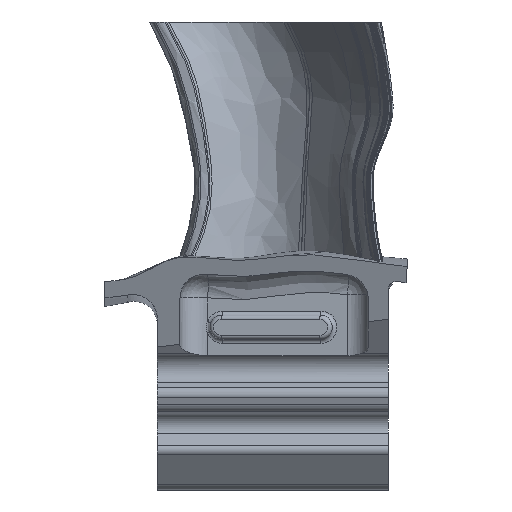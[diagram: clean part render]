
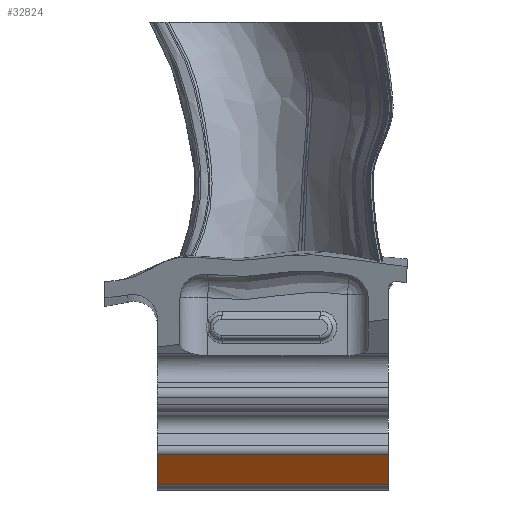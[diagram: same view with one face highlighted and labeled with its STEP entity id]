
A CAD part, front view. The second image highlights one B-rep face of the part: STEP entity #32824.
In plain terms, the highlighted planar face has unit normal (-0.115, -0.819, -0.563).
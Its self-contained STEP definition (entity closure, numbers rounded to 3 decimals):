
#32804=AXIS2_PLACEMENT_3D('Plane Axis2P3D',#32801,#32802,#32803) ;
#32068=CARTESIAN_POINT('Vertex',(-13.497,-1.099,203.612)) ;
#32071=CARTESIAN_POINT('Line Origine',(-13.497,-2.406,205.513)) ;
#32075=CARTESIAN_POINT('Vertex',(-13.497,-3.713,207.414)) ;
#32780=CARTESIAN_POINT('Line Origine',(-0.773,-5.501,207.414)) ;
#32784=CARTESIAN_POINT('Vertex',(15.16,-7.741,207.414)) ;
#32801=CARTESIAN_POINT('Axis2P3D Location',(-0.413,-2.938,203.612)) ;
#32806=CARTESIAN_POINT('Line Origine',(0.831,-3.112,203.612)) ;
#32810=CARTESIAN_POINT('Vertex',(15.16,-5.126,203.612)) ;
#32813=CARTESIAN_POINT('Line Origine',(15.16,-6.433,205.513)) ;
#32072=DIRECTION('Vector Direction',(0.,-0.567,0.824)) ;
#32781=DIRECTION('Vector Direction',(0.99,-0.139,0.)) ;
#32802=DIRECTION('Axis2P3D Direction',(0.115,0.819,0.563)) ;
#32803=DIRECTION('Axis2P3D XDirection',(-0.078,-0.557,0.827)) ;
#32807=DIRECTION('Vector Direction',(0.99,-0.139,0.)) ;
#32814=DIRECTION('Vector Direction',(0.,-0.567,0.824)) ;
#32073=VECTOR('Line Direction',#32072,1.) ;
#32782=VECTOR('Line Direction',#32781,1.) ;
#32808=VECTOR('Line Direction',#32807,1.) ;
#32815=VECTOR('Line Direction',#32814,1.) ;
#32819=ORIENTED_EDGE('',*,*,#32812,.T.) ;
#32820=ORIENTED_EDGE('',*,*,#32817,.T.) ;
#32821=ORIENTED_EDGE('',*,*,#32786,.F.) ;
#32822=ORIENTED_EDGE('',*,*,#32077,.F.) ;
#32824=ADVANCED_FACE('Corps principal',(#32823),#32805,.F.) ;
#32077=EDGE_CURVE('',#32069,#32076,#32074,.T.) ;
#32786=EDGE_CURVE('',#32076,#32785,#32783,.T.) ;
#32812=EDGE_CURVE('',#32069,#32811,#32809,.T.) ;
#32817=EDGE_CURVE('',#32811,#32785,#32816,.T.) ;
#32818=EDGE_LOOP('',(#32819,#32820,#32821,#32822)) ;
#32823=FACE_OUTER_BOUND('',#32818,.T.) ;
#32074=LINE('Line',#32071,#32073) ;
#32783=LINE('Line',#32780,#32782) ;
#32809=LINE('Line',#32806,#32808) ;
#32816=LINE('Line',#32813,#32815) ;
#32805=PLANE('Plane',#32804) ;
#32069=VERTEX_POINT('',#32068) ;
#32076=VERTEX_POINT('',#32075) ;
#32785=VERTEX_POINT('',#32784) ;
#32811=VERTEX_POINT('',#32810) ;
